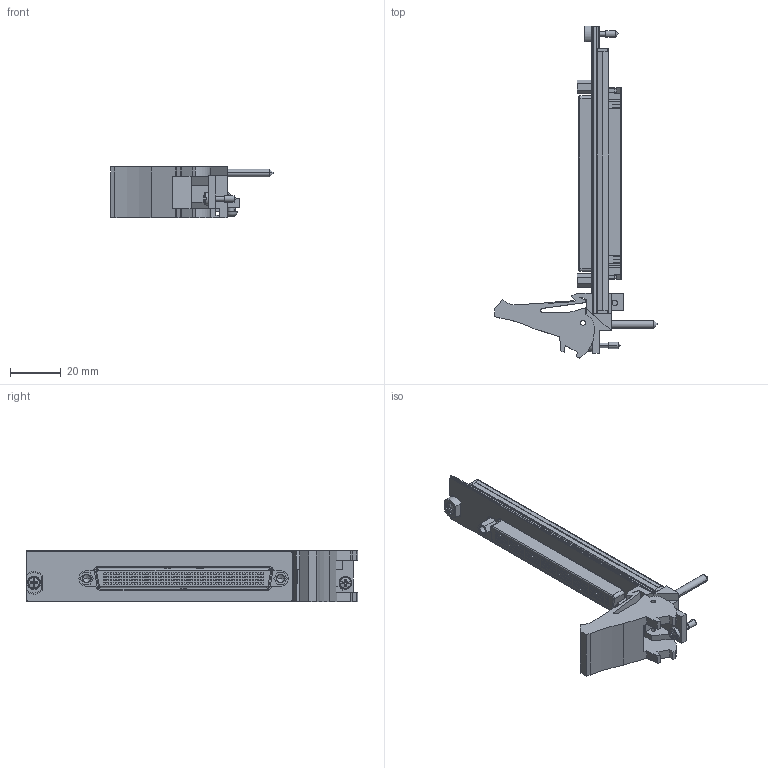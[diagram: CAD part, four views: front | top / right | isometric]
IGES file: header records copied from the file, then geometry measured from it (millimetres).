
Start section:  PTC IGES file: cu_pxi-2575.igs
Global section: file name: cu_pxi-2575.igs; native system: Pro/ENGINEER by Parametric Technology Corporation; preprocessor: 2006080; author: jjorden; organization: Unknown; date: 090901.150833; units: inch
Bounding box: 63.73 x 130.5 x 20.31 mm (x, y, z)
Surface area: 23387.7 mm2 (no closed solid volume)
Topology: 0 solids, 0 shells, 2356 faces, 12436 edges, 12424 vertices
Faces by surface type: bspline 2180, revolution 176
